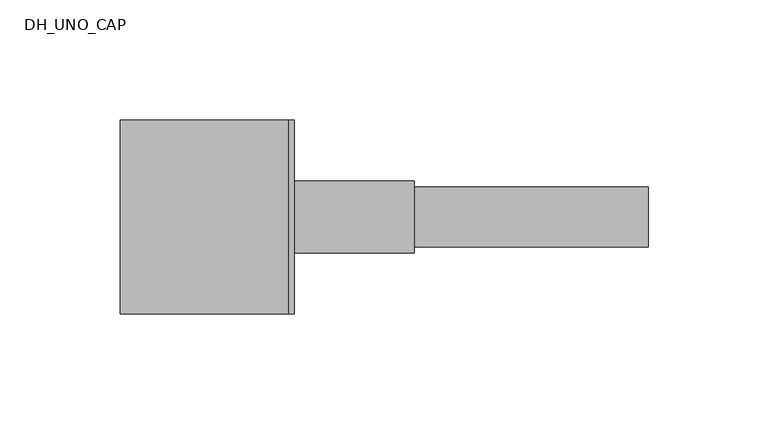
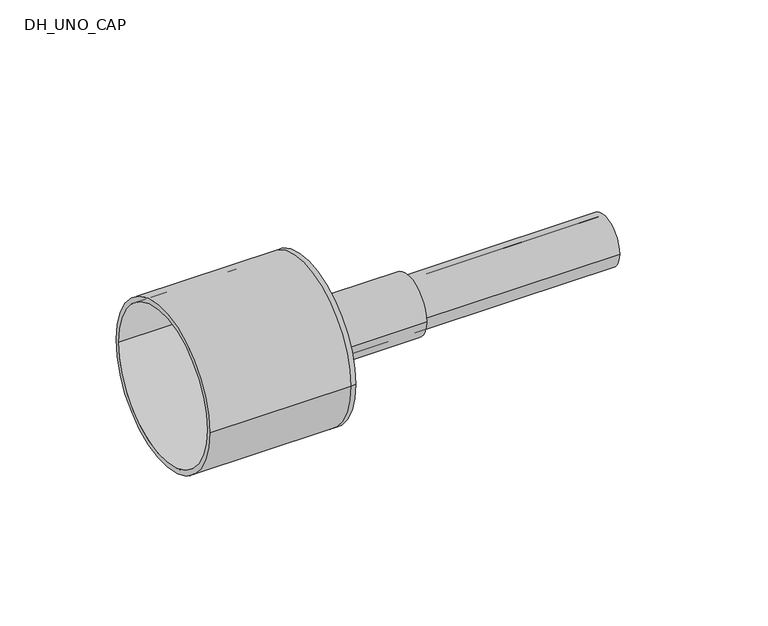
"""IFC4 building model written with IfcOpenShell, lengths in millimetres: pipe fitting geometry, DH_UNO_CAP : RAUTHERMEX UNO 11 COOL - Schrink Cap."""

from ifc_helpers import new_model, si_unit, point, frame, origin, origin_2d, place, context, project, spatial, polyline, circle_curve, trimmed, segment, composite_curve, outline, extrude, source, transform, mapped, element, save
from ifc_brep_helpers import plane_surface, cylinder_surface, revolved_surface, advanced_brep


def dh_uno_cap_b6fb2b5d(model_context):
    return source(origin(), model_context, "Body", "SolidModel", [
        extrude(outline(composite_curve([segment(trimmed(circle_curve(origin_2d(), 12.5), [point((-12.5, 0.0))], [point((12.5, 0.0))], False, "CARTESIAN"), True, "CONTINUOUS"), segment(trimmed(circle_curve(origin_2d(), 12.5), [point((12.5, 0.0))], [point((-12.5, 0.0))], False, "CARTESIAN"), True, "CONTINUOUS")], self_intersect=False), holes=[composite_curve([segment(trimmed(circle_curve(origin_2d(), 10.2), [point((-10.2, 0.0))], [point((10.2, 0.0))], True, "CARTESIAN"), True, "CONTINUOUS"), segment(trimmed(circle_curve(origin_2d(), 10.2), [point((10.2, 0.0))], [point((-10.2, 0.0))], True, "CARTESIAN"), True, "CONTINUOUS")], self_intersect=False)]), frame((0.0, 0.0, 0.0), z_axis=(1.0, 0.0, 0.0), x_axis=(0.0, 1.0, 0.0)), (0.0, 0.0, 1.0), 150.0),
        advanced_brep(
        [(-70.0, -40.5, 0.0), (-70.0, 40.5, 0.0), (-70.0, -38.0, 0.0), (-70.0, 38.0, 0.0), (0.0, -38.0, 0.0), (0.0, 38.0, 0.0), (0.0, -40.5, 0.0), (0.0, 40.5, 0.0), (0.0, 12.5, 0.0), (0.0, -12.5, 0.0), (2.5, -40.5, 0.0), (2.5, 40.5, 0.0), (2.5, -12.5, 0.0), (2.5, 12.5, 0.0)],
        [
            (0, 1, circle_curve(frame((-70.0, 0.0, 0.0), z_axis=(-1.0, 0.0, 0.0), x_axis=(0.0, 1.0, 0.0)), 40.5)),
            (1, 0, circle_curve(frame((-70.0, 0.0, 0.0), z_axis=(-1.0, 0.0, 0.0), x_axis=(0.0, 1.0, 0.0)), 40.5)),
            (2, 3, circle_curve(frame((-70.0, 0.0, 0.0), z_axis=(1.0, 0.0, 0.0), x_axis=(0.0, 1.0, 0.0)), 38.0)),
            (3, 2, circle_curve(frame((-70.0, 0.0, 0.0), z_axis=(1.0, 0.0, 0.0), x_axis=(0.0, 1.0, 0.0)), 38.0)),
            (2, 4),
            (4, 5, circle_curve(frame((0.0, 0.0, 0.0), z_axis=(1.0, 0.0, 0.0), x_axis=(0.0, 1.0, 0.0)), 38.0)),
            (5, 3),
            (5, 4, circle_curve(frame((0.0, 0.0, 0.0), z_axis=(1.0, 0.0, 0.0), x_axis=(0.0, 1.0, 0.0)), 38.0)),
            (0, 6),
            (6, 7, circle_curve(frame((0.0, 0.0, 0.0), z_axis=(-1.0, 0.0, 0.0), x_axis=(0.0, 1.0, 0.0)), 40.5)),
            (7, 1),
            (7, 6, circle_curve(frame((0.0, 0.0, 0.0), z_axis=(-1.0, 0.0, 0.0), x_axis=(0.0, 1.0, 0.0)), 40.5)),
            (8, 9, circle_curve(frame((0.0, 0.0, 0.0), z_axis=(1.0, 0.0, 0.0), x_axis=(0.0, 1.0, 0.0)), 12.5)),
            (9, 8, circle_curve(frame((0.0, 0.0, 0.0), z_axis=(1.0, 0.0, 0.0), x_axis=(0.0, 1.0, 0.0)), 12.5)),
            (10, 11, circle_curve(frame((2.5, 0.0, 0.0), z_axis=(1.0, 0.0, 0.0), x_axis=(0.0, 1.0, 0.0)), 40.5)),
            (11, 10, circle_curve(frame((2.5, 0.0, 0.0), z_axis=(1.0, 0.0, 0.0), x_axis=(0.0, 1.0, 0.0)), 40.5)),
            (12, 13, circle_curve(frame((2.5, 0.0, 0.0), z_axis=(-1.0, 0.0, 0.0), x_axis=(0.0, 1.0, 0.0)), 12.5)),
            (13, 12, circle_curve(frame((2.5, 0.0, 0.0), z_axis=(-1.0, 0.0, 0.0), x_axis=(0.0, 1.0, 0.0)), 12.5)),
            (11, 7),
            (6, 10),
            (8, 13),
            (12, 9),
        ],
        [
            plane_surface(frame((-70.0, 0.0, 0.0), z_axis=(-1.0, 0.0, 0.0), x_axis=(0.0, 0.0, 1.0))),
            revolved_surface(polyline([(0.0, 38.0, 0.0), (-70.0, 38.0, 0.0)]), (-70.0, 0.0, 0.0), (1.0, 0.0, 0.0)),
            cylinder_surface(frame((-70.0, 0.0, 0.0), z_axis=(-1.0, 0.0, 0.0), x_axis=(0.0, 1.0, 0.0)), 40.5),
            plane_surface(frame((0.0, 0.0, 0.0), z_axis=(-1.0, 0.0, 0.0), x_axis=(0.0, 0.0, 1.0))),
            plane_surface(frame((2.5, 0.0, 0.0), z_axis=(1.0, 0.0, 0.0), x_axis=(0.0, 0.0, 1.0))),
            cylinder_surface(frame((0.0, 0.0, 0.0), z_axis=(-1.0, 0.0, 0.0), x_axis=(0.0, 1.0, 0.0)), 40.5),
            revolved_surface(polyline([(0.0, 12.5, 0.0), (2.5, 12.5, 0.0)]), (0.0, 0.0, 0.0), (-1.0, 0.0, 0.0)),
        ],
        [
            (0, [[1, 2], [3, 4]]),
            (1, [[-3, 5, 6, 7]]),
            (1, [[-4, -7, 8, -5]]),
            (2, [[-1, 9, 10, 11]]),
            (2, [[-2, -11, 12, -9]]),
            (3, [[-6, -8], [13, 14]]),
            (4, [[15, 16], [17, 18]]),
            (5, [[-16, 19, -10, 20]]),
            (5, [[-15, -20, -12, -19]]),
            (6, [[21, -17, 22, -13]]),
            (6, [[-21, -14, -22, -18]]),
        ],
    ),
        extrude(outline(composite_curve([segment(trimmed(circle_curve(origin_2d(), 15.0), [point((-15.0, 0.0))], [point((15.0, 0.0))], False, "CARTESIAN"), True, "CONTINUOUS"), segment(trimmed(circle_curve(origin_2d(), 15.0), [point((15.0, 0.0))], [point((-15.0, 0.0))], False, "CARTESIAN"), True, "CONTINUOUS")], self_intersect=False), holes=[composite_curve([segment(trimmed(circle_curve(origin_2d(), 12.5), [point((-12.5, 0.0))], [point((12.5, 0.0))], True, "CARTESIAN"), True, "CONTINUOUS"), segment(trimmed(circle_curve(origin_2d(), 12.5), [point((12.5, 0.0))], [point((-12.5, 0.0))], True, "CARTESIAN"), True, "CONTINUOUS")], self_intersect=False)]), frame((2.5, 0.0, 0.0), z_axis=(1.0, 0.0, 0.0), x_axis=(0.0, 1.0, 0.0)), (0.0, 0.0, 1.0), 50.0),
    ])


if __name__ == "__main__":
    model = new_model("IFC4")
    model_context = context("Model", 3, world=origin())
    ifc_project = project(units=[si_unit("LENGTHUNIT", "METRE", prefix="MILLI")], contexts=[model_context])
    site = spatial("IfcSite", under=ifc_project)
    building = spatial("IfcBuilding", under=site)
    placement = place(None, origin())
    dh_uno_cap_shape = dh_uno_cap_b6fb2b5d(model_context)
    element("IfcPipeFitting", 1, ObjectType="DH_UNO_CAP : RAUTHERMEX UNO 11 COOL - Schrink Cap", at=placement, inside=building, context=model_context, shape_type="MappedRepresentation", body=[
        mapped(dh_uno_cap_shape, transform((0.0, 0.0, 0.0), x_axis=(1.0, 0.0, 0.0), y_axis=(0.0, 1.0, 0.0), z_axis=(0.0, 0.0, 1.0))),
    ])
    save(model, "model.ifc")
